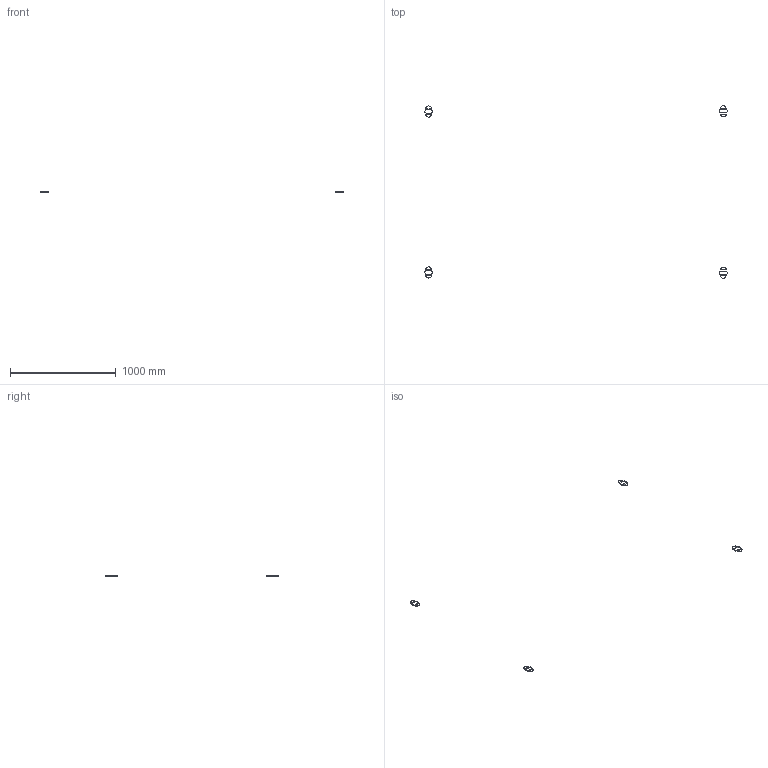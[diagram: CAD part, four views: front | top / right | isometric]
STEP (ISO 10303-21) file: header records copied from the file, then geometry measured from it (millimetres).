
FILE_DESCRIPTION(('ANSA STEP Exchange Structure File'),'2;1');
FILE_NAME('/cfdfiles/CFDDATA/Conferences/4thAutomotiveCFDWorkshop/ANSA/to_give/tyre_plinth.step','2024-04-08T15:42',('nlewing1'),('none'),'ANSA 24.1.2','ANSA 24.1.2 AP214','none');
FILE_SCHEMA(('AUTOMOTIVE_DESIGN { 1 0 10303 214 1 1 1 1 }'));
Length unit declared in the file: millimetre
Products named in the file (1): tyre_plinth
Bounding box: 2855.34 x 1631.95 x 3.06 mm (x, y, z)
Surface area: 5346.7 mm2 (no closed solid volume)
Topology: 0 solids, 12 shells, 39 faces, 177 edges, 138 vertices
Faces by surface type: bspline 39
Entity records: 14367 total; most frequent: CARTESIAN_POINT 13365, ORIENTED_EDGE 216, B_SPLINE_CURVE_WITH_KNOTS 177, EDGE_CURVE 177, VERTEX_POINT 138, B_SPLINE_SURFACE_WITH_KNOTS 39, EDGE_LOOP 39, FACE_OUTER_BOUND 39
